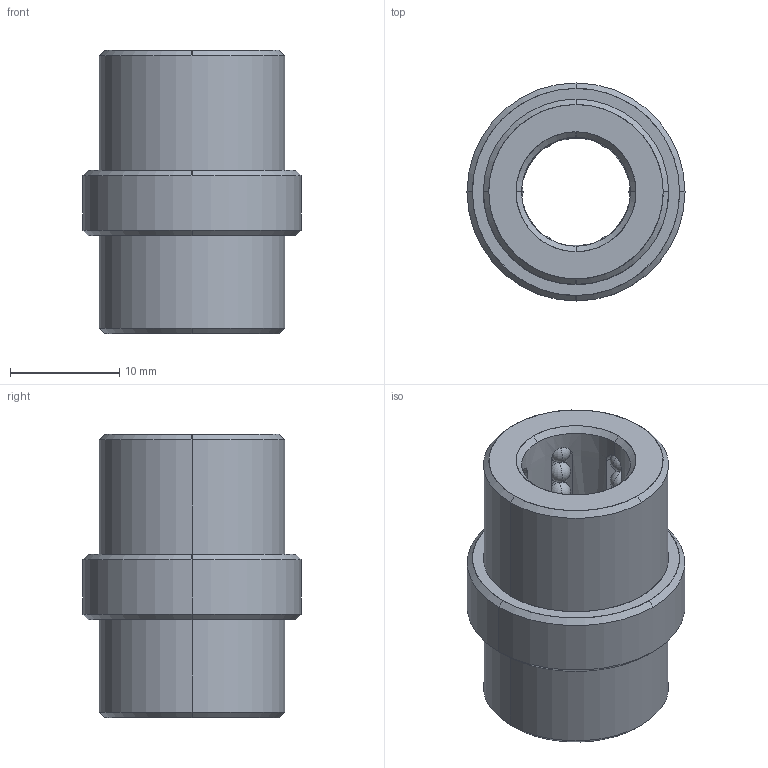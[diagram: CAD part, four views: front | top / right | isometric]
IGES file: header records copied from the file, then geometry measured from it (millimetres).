
Start section: START RECORD GO HERE.
Global section: file name: B84410917.igs; native system: DASSAULT SYSTEMES CATIA V5 R20 - www.3ds.com; preprocessor: CATIA Version 5 Release 20 ; author: Utente; organization: NB04-ASUS; date: 20200419.200943; units: millimetre
Bounding box: 20 x 20 x 26 mm (x, y, z)
Surface area: 3944 mm2 (no closed solid volume)
Topology: 0 solids, 0 shells, 306 faces, 1284 edges, 804 vertices
Faces by surface type: revolution 284, plane 22
